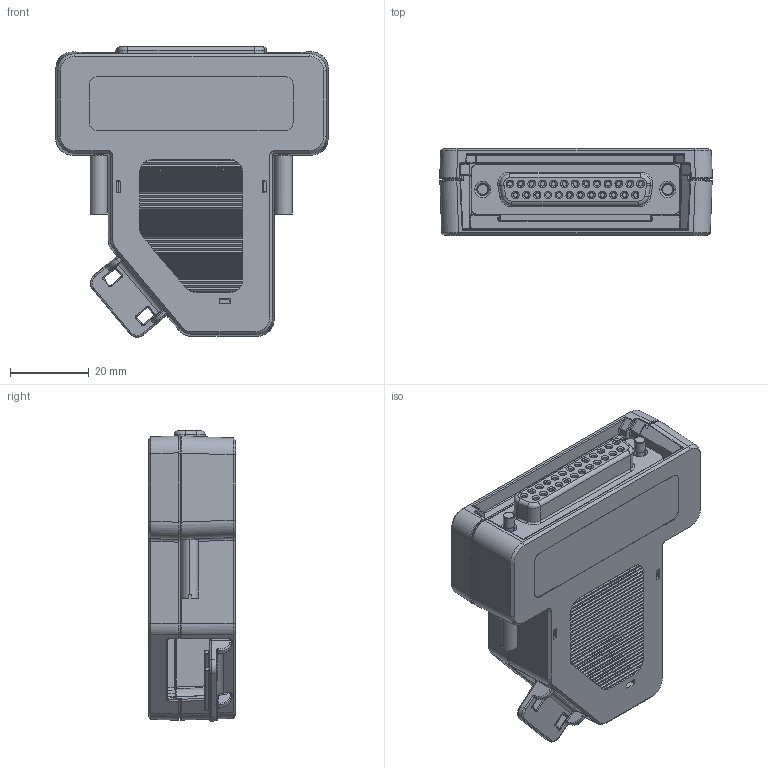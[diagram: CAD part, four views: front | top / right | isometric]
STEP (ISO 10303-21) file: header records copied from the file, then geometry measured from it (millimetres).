
FILE_DESCRIPTION((''),'2;1');
FILE_NAME('CU_NI-9924','2012-03-12T',('dkendric'),(''),'PRO/ENGINEER BY PARAMETRIC TECHNOLOGY CORPORATION, 2010230','PRO/ENGINEER BY PARAMETRIC TECHNOLOGY CORPORATION, 2010230','');
FILE_SCHEMA(('CONFIG_CONTROL_DESIGN'));
Products named in the file (1): CU_NI-9924
Bounding box: 69.36 x 22.2 x 73.86 mm (x, y, z)
Volume: 4550.2 mm3; surface area: 36703.9 mm2
Topology: 7 solids, 12 shells, 2786 faces, 6648 edges, 4000 vertices
Faces by surface type: plane 1020, cylinder 987, bspline 324, torus 180, cone 145, sphere 130
Entity records: 98228 total; most frequent: CARTESIAN_POINT 35590, ORIENTED_EDGE 13165, DIRECTION 12596, EDGE_CURVE 6639, AXIS2_PLACEMENT_3D 4510, VERTEX_POINT 4000, VECTOR 3576, LINE 3576
